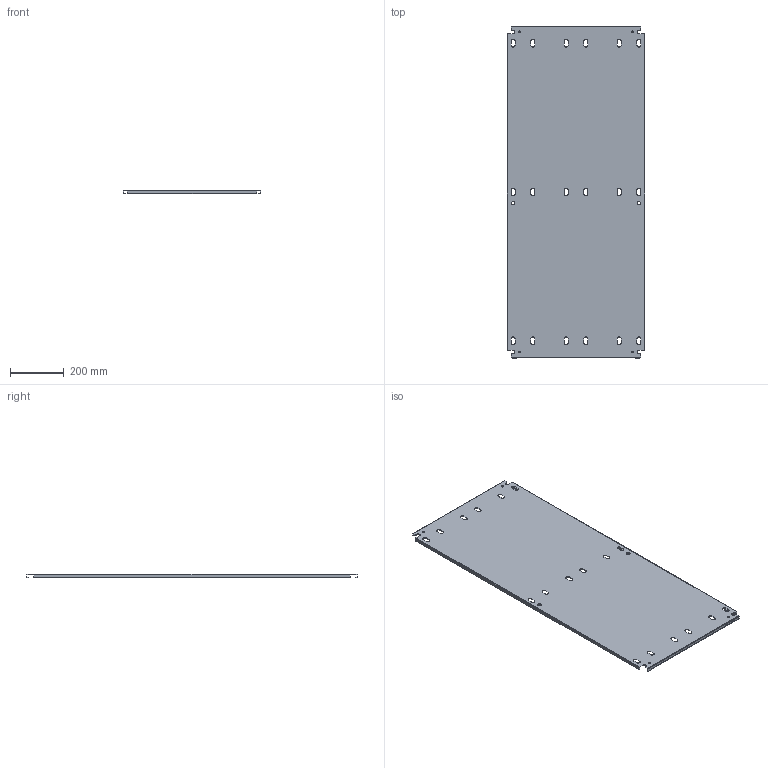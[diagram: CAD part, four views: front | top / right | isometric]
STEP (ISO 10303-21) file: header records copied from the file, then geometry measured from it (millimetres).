
FILE_DESCRIPTION(/* description */ ('1412BTSSCU 20.125" x 48.5" Right Inner Panel'),/* implementation_level */ '2;1');
FILE_NAME(/* name */ 'C:\Vault_Workspace\Inventor_Dwg\BoxCad\Result\1412BTSSCU111603\e-mail\3D\1412BTSSCU111603IP2.stp',/* time_stamp */ '2022-09-20T12:46:46-04:00',/* author */ ('BoxCad'),/* organization */ (''),/* preprocessor_version */ 'ST-DEVELOPER v18.1',/* originating_system */ 'Autodesk Inventor 2020',/* authorisation */ '');
FILE_SCHEMA (('AUTOMOTIVE_DESIGN { 1 0 10303 214 3 1 1 }'));
Length unit declared in the file: inch
Products named in the file (2): 1412BTSSCU111603IP2; 1412BTSSCU111603IP2-P
Assembly tree (1 placements, depth 2):
  1412BTSSCU111603IP2
    1412BTSSCU111603IP2-P
Bounding box: 511.18 x 1231.9 x 13 mm (x, y, z)
Volume: 1176095.7 mm3; surface area: 1370958.3 mm2
Topology: 1 solids, 1 shells, 192 faces, 570 edges, 380 vertices
Faces by surface type: plane 106, cylinder 86
Full cylindrical faces by diameter (mm): 7.366 x4, 12.7 x2
Entity records: 6631 total; most frequent: CARTESIAN_POINT 1145, ORIENTED_EDGE 1140, DIRECTION 1132, EDGE_CURVE 570, LINE 398, VECTOR 398, VERTEX_POINT 380, AXIS2_PLACEMENT_3D 367
